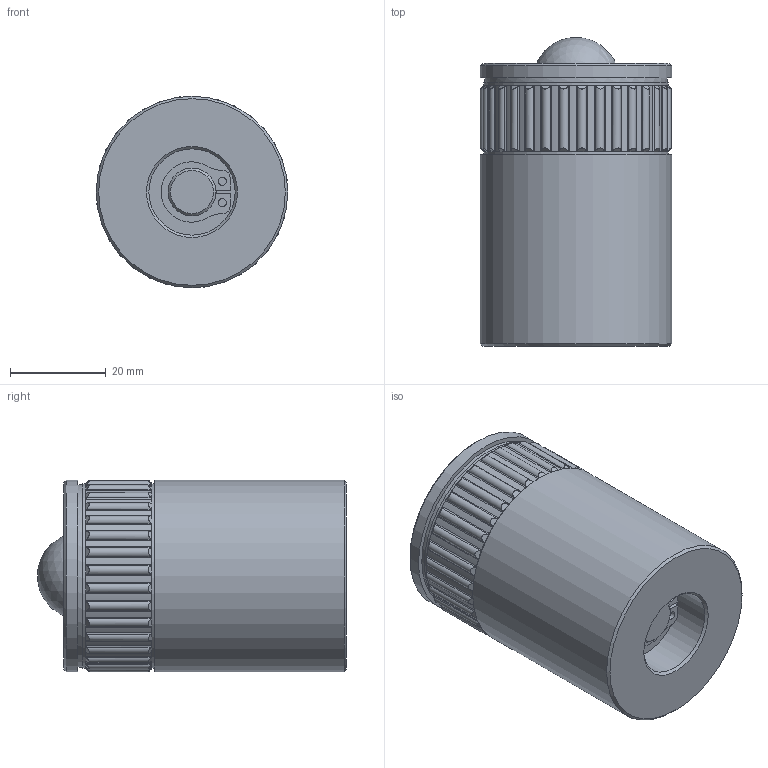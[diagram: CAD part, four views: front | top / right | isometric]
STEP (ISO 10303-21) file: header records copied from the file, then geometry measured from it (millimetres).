
FILE_DESCRIPTION(/* description */ (''),/* implementation_level */ '2;1');
FILE_NAME(/* name */ '\\EASAD\users\diepstratenf\Desktop\SMB36.stp',/* time_stamp */ '2016-04-18T08:14:08+02:00',/* author */ ('diepstratenf'),/* organization */ (''),/* preprocessor_version */ 'ST-DEVELOPER v15.2',/* originating_system */ 'Autodesk Inventor 2014',/* authorisation */ '');
FILE_SCHEMA (('AUTOMOTIVE_DESIGN { 1 0 10303 214 3 1 1 }'));
Length unit declared in the file: millimetre
Products named in the file (1): Part5
Bounding box: 39.95 x 64.43 x 39.95 mm (x, y, z)
Volume: 59386.2 mm3; surface area: 39444.5 mm2
Topology: 32 solids, 63 shells, 485 faces, 1214 edges, 818 vertices
Faces by surface type: sphere 203, cylinder 168, cone 84, plane 26, torus 4
Full cylindrical faces by diameter (mm): 1.7 x2, 9.4 x1, 10 x17, 10.2 x1, 18 x1, 18.2 x1, 23 x1, 27 x1, 27.05 x1, 27.7 x1, 30.05 x1, 30.2 x1, 38 x1, 39.95 x2
Entity records: 19637 total; most frequent: CARTESIAN_POINT 9945, DIRECTION 1690, ORIENTED_EDGE 1654, EDGE_LOOP 828, EDGE_CURVE 811, AXIS2_PLACEMENT_3D 762, VERTEX_POINT 643, FACE_BOUND 506
